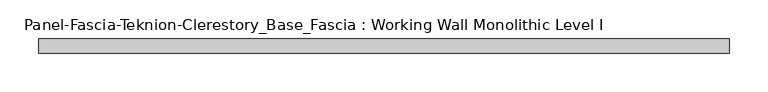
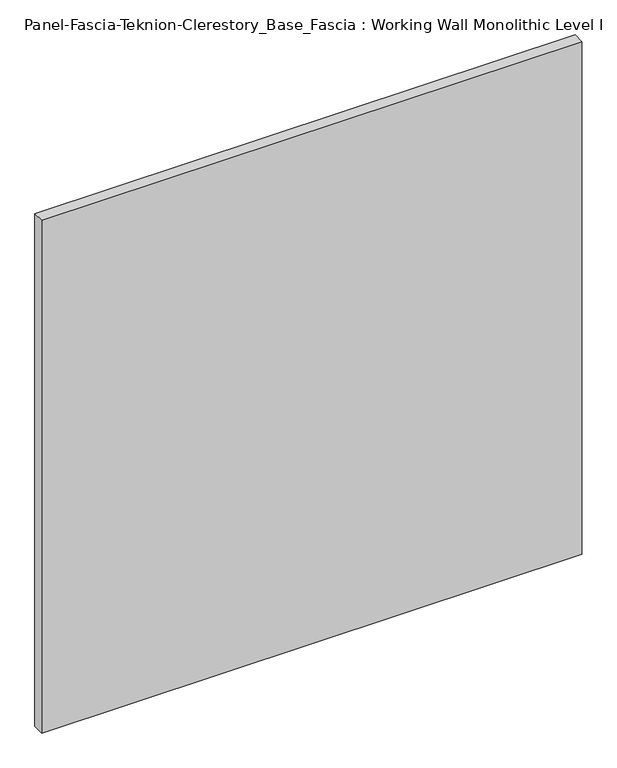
"""IFC4 building model written with IfcOpenShell, lengths in millimetres: proxy geometry, Panel-Fascia-Teknion-Clerestory_Base_Fascia : Working Wall Monolithic Level I."""

from ifc_helpers import new_model, si_unit, frame, origin, place, context, project, spatial, polyline, outline, extrude, source, transform, mapped, element, save


def panel_fascia_teknion_clerestory_base_fascia_working_wall_c515cb01(model_context):
    return source(origin(), model_context, "Body", "SweptSolid", [
        extrude(outline(polyline([(447.6198344, 9.525), (447.6198344, -9.525), (-447.6198344, -9.525), (-447.6198344, 9.525), (447.6198344, 9.525)])), frame((0.0, 0.0, 3.175), z_axis=(0.0, 0.0, 1.0), x_axis=(1.0, 0.0, 0.0)), (0.0, 0.0, 1.0), 898.525),
    ])


if __name__ == "__main__":
    model = new_model("IFC4")
    model_context = context("Model", 3, world=origin())
    ifc_project = project(units=[si_unit("LENGTHUNIT", "METRE", prefix="MILLI")], contexts=[model_context])
    site = spatial("IfcSite", under=ifc_project)
    building = spatial("IfcBuilding", under=site)
    placement = place(None, origin())
    panel_fascia_teknion_clerestory_base_fascia_working_wall_shape = panel_fascia_teknion_clerestory_base_fascia_working_wall_c515cb01(model_context)
    element("IfcBuildingElementProxy", 1, Name="Panel-Fascia-Teknion-Clerestory_Base_Fascia : Working Wall Monolithic Level I", ObjectType="Panel-Fascia-Teknion-Clerestory_Base_Fascia : Working Wall Monolithic Level I", at=placement, inside=building, context=model_context, shape_type="MappedRepresentation", body=[
        mapped(panel_fascia_teknion_clerestory_base_fascia_working_wall_shape, transform((0.0, 0.0, 0.0), x_axis=(1.0, 0.0, 0.0), y_axis=(0.0, 1.0, 0.0), z_axis=(0.0, 0.0, 1.0))),
    ])
    save(model, "model.ifc")
